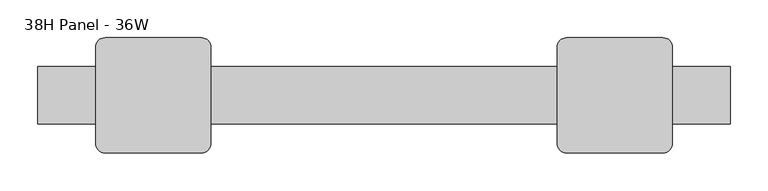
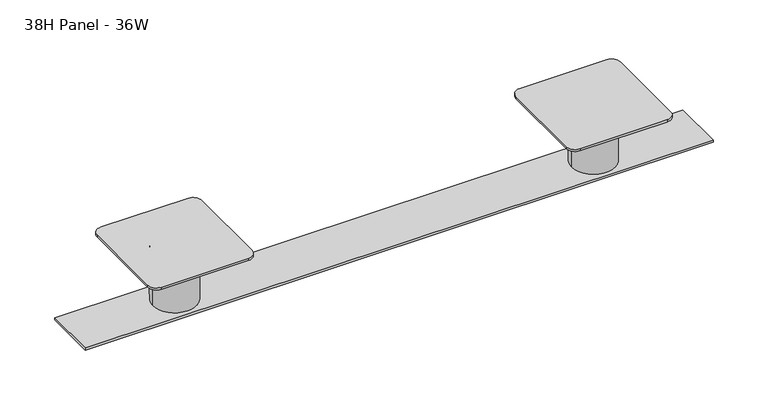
"""IFC4 building model written with IfcOpenShell, lengths in millimetres: furniture geometry, Steelcase - Montage - Healthcare Components - Upmount Transaction Top Brackets : 38H Panel - 36W."""

from ifc_helpers import new_model, si_unit, point, frame, frame_2d, origin, place, context, project, spatial, polyline, circle_curve, trimmed, segment, composite_curve, outline, extrude, source, transform, mapped, element, save


def furniture_38h_panel_36w_7835546e(model_context):
    return source(origin(), model_context, "Body", "SweptSolid", [
        extrude(outline(composite_curve([segment(trimmed(circle_curve(frame_2d((38.1, 0.0)), 31.75), [point((6.35, 0.0))], [point((69.85, 0.0))], False, "CARTESIAN"), True, "CONTINUOUS"), segment(trimmed(circle_curve(frame_2d((38.1, 0.0)), 31.75), [point((69.85, 0.0))], [point((6.35, 0.0))], False, "CARTESIAN"), True, "CONTINUOUS")], self_intersect=False)), frame((0.0, 0.0, 962.0249758), z_axis=(0.0, 0.0, 1.0), x_axis=(1.0, 0.0, 0.0)), (0.0, 0.0, 1.0), 82.5500242),
        extrude(outline(composite_curve([segment(trimmed(circle_curve(frame_2d((647.7, 0.0)), 31.75), [point((615.95, 0.0))], [point((679.45, 0.0))], False, "CARTESIAN"), True, "CONTINUOUS"), segment(trimmed(circle_curve(frame_2d((647.7, 0.0)), 31.75), [point((679.45, 0.0))], [point((615.95, 0.0))], False, "CARTESIAN"), True, "CONTINUOUS")], self_intersect=False)), frame((0.0, 0.0, 962.0249758), z_axis=(0.0, 0.0, 1.0), x_axis=(1.0, 0.0, 0.0)), (0.0, 0.0, 1.0), 82.5500242),
        extrude(outline(composite_curve([segment(trimmed(circle_curve(frame_2d((101.6, 63.5)), 12.7), [point((101.6, 76.2))], [point((114.3, 63.5))], False, "CARTESIAN"), True, "CONTINUOUS"), segment(polyline([(114.3, 63.5), (114.3, -63.5)]), True, "CONTINUOUS"), segment(trimmed(circle_curve(frame_2d((101.6, -63.5)), 12.7), [point((114.3, -63.5))], [point((101.6, -76.2))], False, "CARTESIAN"), True, "CONTINUOUS"), segment(polyline([(101.6, -76.2), (-25.4, -76.2)]), True, "CONTINUOUS"), segment(trimmed(circle_curve(frame_2d((-25.4, -63.5)), 12.7), [point((-25.4, -76.2))], [point((-38.1, -63.5))], False, "CARTESIAN"), True, "CONTINUOUS"), segment(polyline([(-38.1, -63.5), (-38.1, 63.5)]), True, "CONTINUOUS"), segment(trimmed(circle_curve(frame_2d((-25.4, 63.5)), 12.7), [point((-38.1, 63.5))], [point((-25.4, 76.2))], False, "CARTESIAN"), True, "CONTINUOUS"), segment(polyline([(-25.4, 76.2), (101.6, 76.2)]), True, "CONTINUOUS")], self_intersect=False)), frame((0.0, 0.0, 1044.575), z_axis=(0.0, 0.0, 1.0), x_axis=(1.0, 0.0, 0.0)), (0.0, 0.0, 1.0), 3.1749758),
        extrude(outline(composite_curve([segment(polyline([(584.2, 76.2), (711.2, 76.2)]), True, "CONTINUOUS"), segment(trimmed(circle_curve(frame_2d((711.2, 63.5)), 12.7), [point((711.2, 76.2))], [point((723.9, 63.5))], False, "CARTESIAN"), True, "CONTINUOUS"), segment(polyline([(723.9, 63.5), (723.9, -63.5)]), True, "CONTINUOUS"), segment(trimmed(circle_curve(frame_2d((711.2, -63.5)), 12.7), [point((723.9, -63.5))], [point((711.2, -76.2))], False, "CARTESIAN"), True, "CONTINUOUS"), segment(polyline([(711.2, -76.2), (584.2, -76.2)]), True, "CONTINUOUS"), segment(trimmed(circle_curve(frame_2d((584.2, -63.5)), 12.7), [point((584.2, -76.2))], [point((571.5, -63.5))], False, "CARTESIAN"), True, "CONTINUOUS"), segment(polyline([(571.5, -63.5), (571.5, 63.5)]), True, "CONTINUOUS"), segment(trimmed(circle_curve(frame_2d((584.2, 63.5)), 12.7), [point((571.5, 63.5))], [point((584.2, 76.2))], False, "CARTESIAN"), True, "CONTINUOUS")], self_intersect=False)), frame((0.0, 0.0, 1044.575), z_axis=(0.0, 0.0, 1.0), x_axis=(1.0, 0.0, 0.0)), (0.0, 0.0, 1.0), 3.1749758),
        extrude(outline(polyline([(800.1, -38.1), (-114.3, -38.1), (-114.3, 38.1), (800.1, 38.1), (800.1, -38.1)])), frame((0.0, 0.0, 958.85), z_axis=(0.0, 0.0, 1.0), x_axis=(1.0, 0.0, 0.0)), (0.0, 0.0, 1.0), 3.1749758),
    ])


if __name__ == "__main__":
    model = new_model("IFC4")
    model_context = context("Model", 3, world=origin())
    ifc_project = project(units=[si_unit("LENGTHUNIT", "METRE", prefix="MILLI")], contexts=[model_context])
    site = spatial("IfcSite", under=ifc_project)
    building = spatial("IfcBuilding", under=site)
    placement = place(None, origin())
    furniture_38h_panel_36w_shape = furniture_38h_panel_36w_7835546e(model_context)
    element("IfcFurniture", 1, ObjectType="Steelcase - Montage - Healthcare Components - Upmount Transaction Top Brackets : 38H Panel - 36W", at=placement, inside=building, context=model_context, shape_type="MappedRepresentation", body=[
        mapped(furniture_38h_panel_36w_shape, transform((0.0, 0.0, 0.0), x_axis=(1.0, 0.0, 0.0), y_axis=(0.0, 1.0, 0.0), z_axis=(0.0, 0.0, 1.0))),
    ])
    save(model, "model.ifc")
